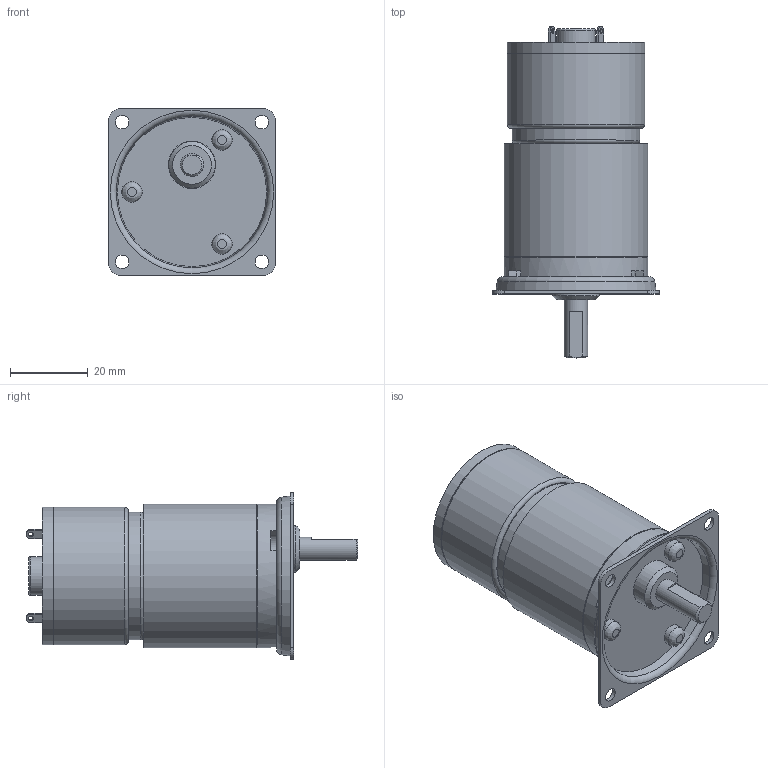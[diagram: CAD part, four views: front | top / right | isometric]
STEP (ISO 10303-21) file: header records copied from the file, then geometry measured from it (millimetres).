
FILE_DESCRIPTION((''),'2;1');
FILE_NAME('C:\Documents and Settings\SSEGAWA\デスクトップ\TP-3526A-PKS-6.STP','2013-07-09T14:43:26',('SSEGAWA'),(''),'Autodesk Inventor 2010','Autodesk Inventor 2010','');
FILE_SCHEMA(('CONFIG_CONTROL_DESIGN'));
Length unit declared in the file: millimetre
Products named in the file (5): tp_3526abcj_pks_6; pks_6; ks_6; □43; tp_3526a,b,c,j
Assembly tree (4 placements, depth 3):
  tp_3526abcj_pks_6
    pks_6
      ks_6
      □43
    tp_3526a,b,c,j
Bounding box: 43 x 85.6 x 43 mm (x, y, z)
Volume: 65213.1 mm3; surface area: 16633.2 mm2
Topology: 4 solids, 4 shells, 112 faces, 256 edges, 170 vertices
Faces by surface type: plane 47, cylinder 28, bspline 28, torus 5, cone 4
Full cylindrical faces by diameter (mm): 2 x1, 4 x1, 5.3 x3, 6 x1, 10 x2, 12 x1, 12.2 x1, 33 x1, 35 x1, 35.4 x2, 36.6 x1, 37 x2
Entity records: 3303 total; most frequent: CARTESIAN_POINT 1024, DIRECTION 465, ORIENTED_EDGE 348, AXIS2_PLACEMENT_3D 200, EDGE_LOOP 197, EDGE_CURVE 174, VERTEX_POINT 141, FACE_OUTER_BOUND 112
